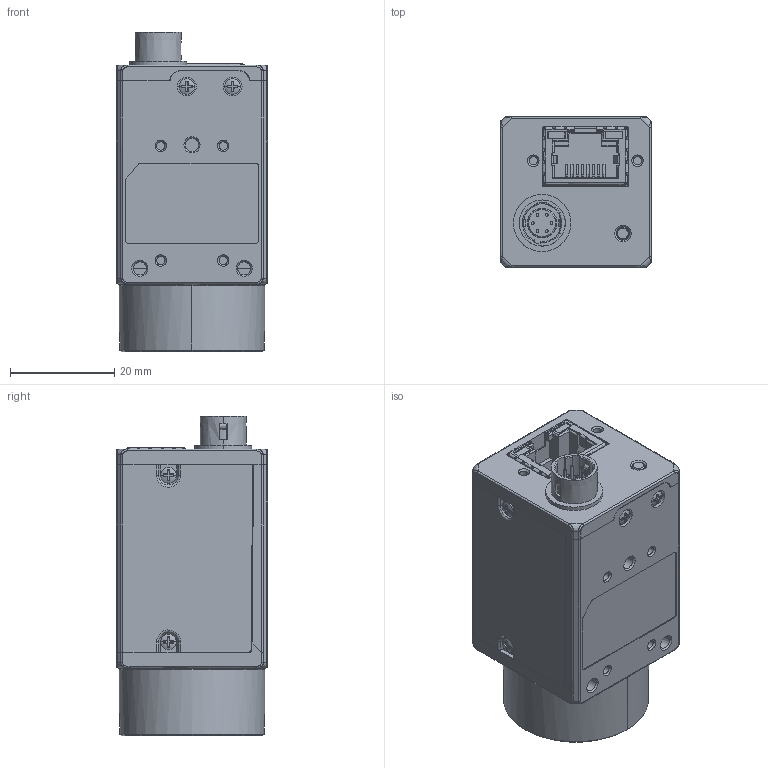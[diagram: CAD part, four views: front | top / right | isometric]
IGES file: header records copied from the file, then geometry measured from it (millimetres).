
Start section:  PTC IGES file: 00_carera_1p3_cmos_asm_asm_asm.igs
Global section: file name: 00_carera_1p3_cmos_asm_asm_asm.igs; native system: Creo Parametric by PTC Inc.; preprocessor: 2017260; author: gengdawei; organization: Unknown; date: 20210713.135906; units: millimetre
Bounding box: 29.03 x 29 x 61.28 mm (x, y, z)
Volume: 34906.9 mm3; surface area: 14231.9 mm2
Topology: 1 solids, 24 shells, 1918 faces, 5265 edges, 3328 vertices
Faces by surface type: bspline 1083, revolution 826, extrusion 9
